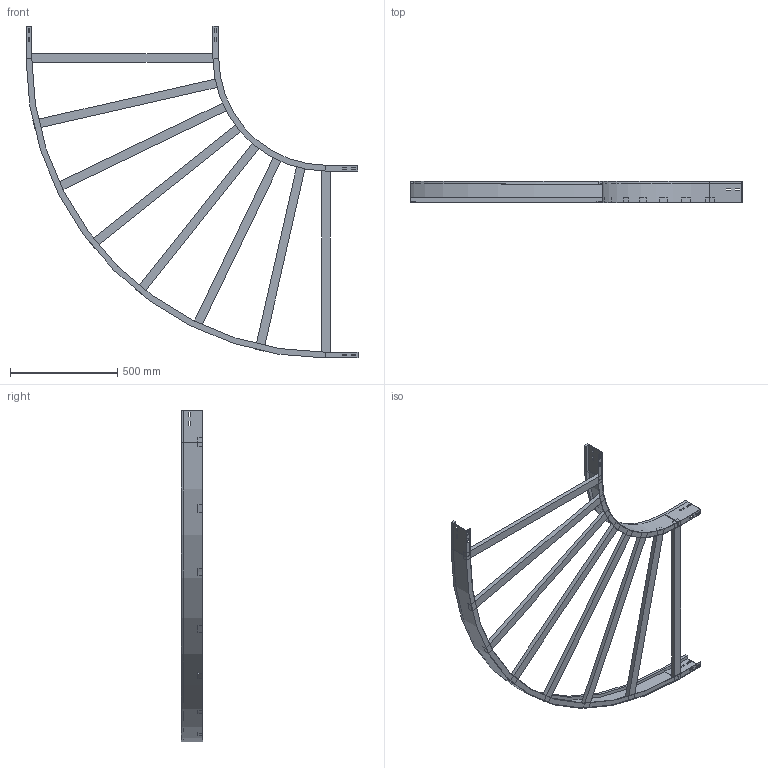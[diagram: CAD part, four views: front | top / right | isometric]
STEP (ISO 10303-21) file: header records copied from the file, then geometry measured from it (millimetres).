
FILE_DESCRIPTION (( 'STEP AP214' ), '1' );
FILE_NAME ('10B5D900.step', '2025-02-21T15:22:40', ( '' ), ( '' ), 'SwSTEP 2.0', 'SolidWorks 2023', '' );
FILE_SCHEMA (( 'AUTOMOTIVE_DESIGN' ));
Length unit declared in the file: millimetre
Products named in the file (4): TRAVERSINO_900; 10B5D900; A2_LONGH.INTERNO 90°_H100_R500; A2_LONGH.ESTERNO 90°_H100_R500+900
Assembly tree (10 placements, depth 2):
  10B5D900
    A2_LONGH.INTERNO 90°_H100_R500
    A2_LONGH.ESTERNO 90°_H100_R500+900
    TRAVERSINO_900  x8
Bounding box: 1550 x 100 x 1550 mm (x, y, z)
Volume: 7385506.8 mm3; surface area: 1904154.7 mm2
Topology: 10 solids, 10 shells, 164 faces, 400 edges, 256 vertices
Faces by surface type: plane 156, cylinder 8
Entity records: 3861 total; most frequent: CARTESIAN_POINT 651, ORIENTED_EDGE 632, DIRECTION 602, EDGE_CURVE 316, LINE 300, VECTOR 300, VERTEX_POINT 200, EDGE_LOOP 154
